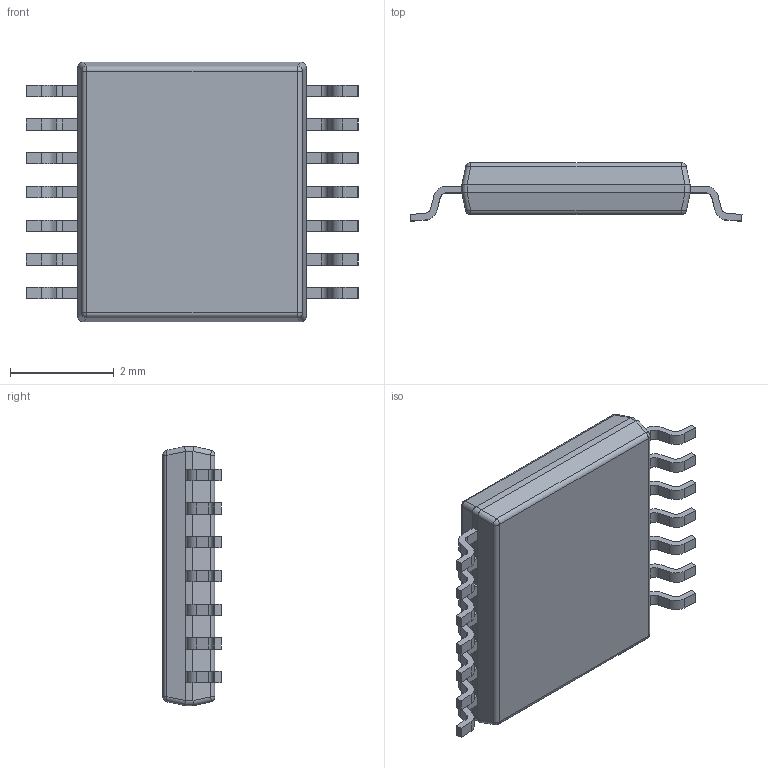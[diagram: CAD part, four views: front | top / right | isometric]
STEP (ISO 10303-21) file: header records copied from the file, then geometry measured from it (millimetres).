
FILE_DESCRIPTION (( 'STEP AP214' ), '1' );
FILE_NAME ('Allegro-LU-Package-TSSOP-14.STEP', '2022-07-29T19:23:10', ( '' ), ( '' ), 'SwSTEP 2.0', 'SolidWorks 2019', '' );
FILE_SCHEMA (( 'AUTOMOTIVE_DESIGN' ));
Length unit declared in the file: millimetre
Products named in the file (3): LU-mold14pin; Allegro-LU-Package-TSSOP-14; 2814D LF for LU package
Assembly tree (2 placements, depth 2):
  Allegro-LU-Package-TSSOP-14
    2814D LF for LU package
    LU-mold14pin
Bounding box: 6.4 x 1.12 x 5 mm (x, y, z)
Volume: 21.7 mm3; surface area: 72.1 mm2
Topology: 15 solids, 15 shells, 241 faces, 606 edges, 396 vertices
Faces by surface type: plane 155, cylinder 78, sphere 8
Entity records: 7395 total; most frequent: CARTESIAN_POINT 1320, DIRECTION 1214, ORIENTED_EDGE 1212, EDGE_CURVE 606, LINE 442, VECTOR 442, VERTEX_POINT 396, AXIS2_PLACEMENT_3D 386
